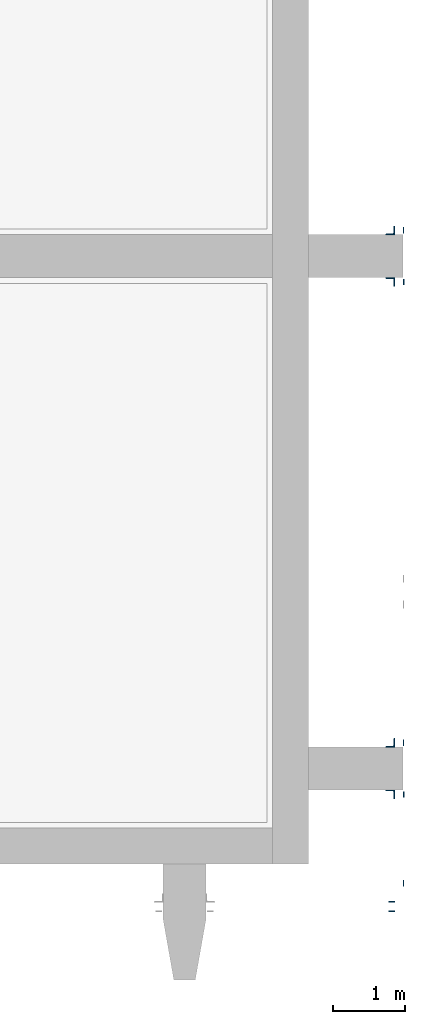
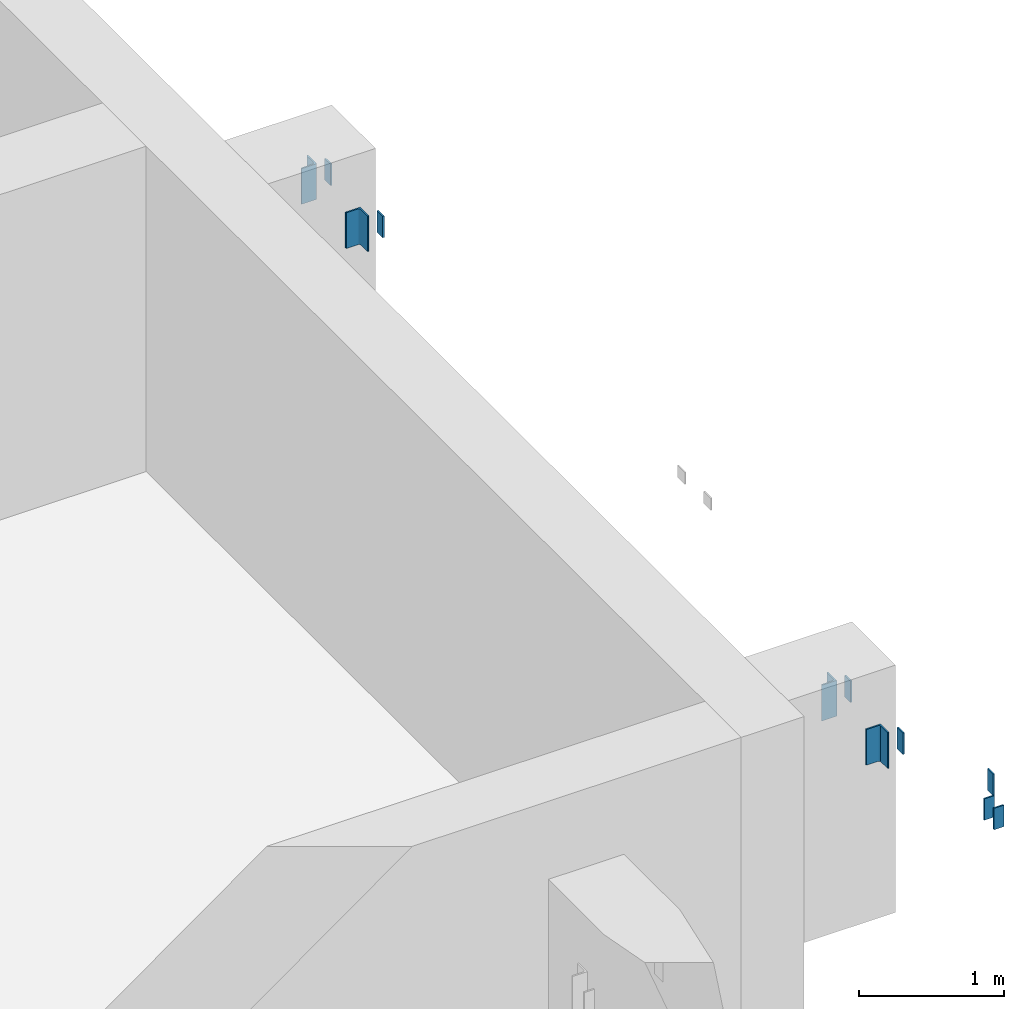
# One storey, part 9 of 22: 11 columns.
"""IFC2X3 building model written with IfcOpenShell, lengths in millimetres."""

from ifc_helpers import new_model, entity, si_unit, converted_unit, derived_unit, direction, frame, frame_2d, origin, origin_2d_with_axis, place, context, subcontext, project, spatial, polyline, circle_curve, parameter, trimmed, segment, composite_curve, rectangle, outline, extrude, source, transform, mapped, material, type_object, type_shapes, element, save


model = new_model("IFC2X3")

# Units and contexts
model_context = context("Model", 3, precision=0.01, world=origin(), true_north=direction((6.12303176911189e-17, 1.0)))
body_context = subcontext(model_context, "Body", "Model", "MODEL_VIEW")
ifc_project = project(units=[si_unit("LENGTHUNIT", "METRE", prefix="MILLI"), si_unit("AREAUNIT", "SQUARE_METRE"), si_unit("VOLUMEUNIT", "CUBIC_METRE"), converted_unit("PLANEANGLEUNIT", "DEGREE", entity("IfcRatioMeasure", 0.0174532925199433), si_unit("PLANEANGLEUNIT", "RADIAN"), dimensions=[0, 0, 0, 0, 0, 0, 0]), si_unit("MASSUNIT", "GRAM", prefix="KILO"), derived_unit("MASSDENSITYUNIT", [(si_unit("MASSUNIT", "GRAM", prefix="KILO"), 1), (si_unit("LENGTHUNIT", "METRE"), -3)]), si_unit("TIMEUNIT", "SECOND"), si_unit("FREQUENCYUNIT", "HERTZ"), si_unit("THERMODYNAMICTEMPERATUREUNIT", "DEGREE_CELSIUS"), derived_unit("THERMALTRANSMITTANCEUNIT", [(si_unit("MASSUNIT", "GRAM", prefix="KILO"), 1), (si_unit("THERMODYNAMICTEMPERATUREUNIT", "KELVIN"), -1), (si_unit("TIMEUNIT", "SECOND"), -3)]), derived_unit("VOLUMETRICFLOWRATEUNIT", [(si_unit("LENGTHUNIT", "METRE"), 3), (si_unit("TIMEUNIT", "SECOND"), -1)]), si_unit("ELECTRICCURRENTUNIT", "AMPERE"), si_unit("ELECTRICVOLTAGEUNIT", "VOLT"), si_unit("POWERUNIT", "WATT"), si_unit("FORCEUNIT", "NEWTON", prefix="KILO"), si_unit("ILLUMINANCEUNIT", "LUX"), si_unit("LUMINOUSFLUXUNIT", "LUMEN"), si_unit("LUMINOUSINTENSITYUNIT", "CANDELA"), derived_unit("USERDEFINED", [(si_unit("MASSUNIT", "GRAM", prefix="KILO"), -1), (si_unit("LENGTHUNIT", "METRE"), -2), (si_unit("TIMEUNIT", "SECOND"), 3), (si_unit("LUMINOUSFLUXUNIT", "LUMEN"), 1)]), derived_unit("LINEARVELOCITYUNIT", [(si_unit("LENGTHUNIT", "METRE"), 1), (si_unit("TIMEUNIT", "SECOND"), -1)]), si_unit("PRESSUREUNIT", "PASCAL"), derived_unit("USERDEFINED", [(si_unit("LENGTHUNIT", "METRE"), -2), (si_unit("MASSUNIT", "GRAM", prefix="KILO"), 1), (si_unit("TIMEUNIT", "SECOND"), -2)])], contexts=[model_context])

# Site, building, storey
site_placement = place(None, origin())
site = spatial("IfcSite", under=ifc_project, at=site_placement, Name="Default", CompositionType="ELEMENT")
building_placement = place(site_placement, origin())
building = spatial("IfcBuilding", under=site, at=building_placement, Name="niet gebruiken", CompositionType="ELEMENT")
storey_placement = place(building_placement, frame((0.0, 0.0, 15000.0)))
storey = spatial("IfcBuildingStorey", under=building, at=storey_placement, Name="04 vierde verdieping", CompositionType="ELEMENT", Elevation=15000.0)

# Columns
ifc_material = material(Name="NLRS_h2_staal")
column_type_1 = type_object("IfcColumnType", Name="kolomgelijzijdig hoekprofiel LEQU_120x120x12_!", PredefinedType="COLUMN", material=ifc_material)
shared_shape_1 = source(origin(), body_context, "Body", "SweptSolid", [
    extrude(outline(composite_curve([segment(polyline([(-74.6666666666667, -45.3333333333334), (45.3333333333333, -45.3333333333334)]), True, "CONTINUOUS"), segment(polyline([(45.3333333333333, -45.3333333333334), (45.3333333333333, 74.6666666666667)]), True, "CONTINUOUS"), segment(polyline([(45.3333333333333, 74.6666666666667), (41.3333333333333, 74.6666666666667)]), True, "CONTINUOUS"), segment(trimmed(circle_curve(frame_2d((41.3333333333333, 66.6666666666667), x_axis=(0.0, 1.0)), 8.0), [parameter(0.0)], [parameter(90.0)], True, "PARAMETER"), True, "CONTINUOUS"), segment(polyline([(33.3333333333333, 66.6666666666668), (33.3333333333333, -17.3333333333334)]), True, "CONTINUOUS"), segment(trimmed(circle_curve(frame_2d((17.3333333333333, -17.3333333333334), x_axis=(1.0, 0.0)), 16.0), [parameter(270.0)], [parameter(0.0)], True, "PARAMETER"), False, "CONTINUOUS"), segment(polyline([(17.3333333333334, -33.3333333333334), (-66.6666666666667, -33.3333333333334)]), True, "CONTINUOUS"), segment(trimmed(circle_curve(frame_2d((-66.6666666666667, -41.3333333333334), x_axis=(0.0, 1.0)), 7.99999999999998), [parameter(0.0)], [parameter(90.0000000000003)], True, "PARAMETER"), True, "CONTINUOUS"), segment(polyline([(-74.6666666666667, -41.3333333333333), (-74.6666666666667, -45.3333333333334)]), True, "CONTINUOUS")], self_intersect=False)), frame((32.8333333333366, 32.8333333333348, 16235.0), z_axis=(0.0, 0.0, 1.0), x_axis=(0.0, -1.0, 0.0)), (0.0, 0.0, 1.0), 300.00000000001),
])
type_shapes(column_type_1, [shared_shape_1])
for number, where, z_axis, x_axis in (
    (1, (158667.5, 2787.49999999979, -15000.0), (0.0, 0.0, 1.0), (-1.0, 0.0, 0.0)),
    (2, (158667.5, 9937.49999999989, -15000.0), (0.0, 0.0, 1.0), (-1.0, 0.0, 0.0)),
):
    element("IfcColumn", number, at=place(storey_placement, frame(where, z_axis=z_axis, x_axis=x_axis)), inside=storey, type_object=column_type_1, material=ifc_material, Name="NLRS_28.11_SCO_TLB_stalen kolom hoekprofiel gelijkzijdig_gen:kolomgelijzijdig hoekprofiel LEQU_120x120x12_!", ObjectType="kolomgelijzijdig hoekprofiel LEQU_120x120x12_!", context=body_context, shape_type="MappedRepresentation", body=[
        mapped(shared_shape_1, transform((0.0, 0.0, 0.0), scale=1.0)),
    ])
column_type_2 = type_object("IfcColumnType", Name="kolomgelijzijdig hoekprofiel LEQU_120x120x12_!", PredefinedType="COLUMN", material=ifc_material)
shared_shape_2 = source(origin(), body_context, "Body", "SweptSolid", [
    extrude(outline(composite_curve([segment(polyline([(-45.3333333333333, -45.3333333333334), (74.6666666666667, -45.3333333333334)]), True, "CONTINUOUS"), segment(polyline([(74.6666666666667, -45.3333333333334), (74.6666666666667, -41.3333333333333)]), True, "CONTINUOUS"), segment(trimmed(circle_curve(frame_2d((66.6666666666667, -41.3333333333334), x_axis=(1.0, 0.0)), 7.99999999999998), [parameter(0.0)], [parameter(90.0000000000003)], True, "PARAMETER"), True, "CONTINUOUS"), segment(polyline([(66.6666666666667, -33.3333333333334), (-17.3333333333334, -33.3333333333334)]), True, "CONTINUOUS"), segment(trimmed(circle_curve(frame_2d((-17.3333333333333, -17.3333333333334), x_axis=(0.0, -1.0)), 16.0), [parameter(270.0)], [parameter(0.0)], True, "PARAMETER"), False, "CONTINUOUS"), segment(polyline([(-33.3333333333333, -17.3333333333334), (-33.3333333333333, 66.6666666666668)]), True, "CONTINUOUS"), segment(trimmed(circle_curve(frame_2d((-41.3333333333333, 66.6666666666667), x_axis=(1.0, 0.0)), 8.0), [parameter(0.0)], [parameter(90.0)], True, "PARAMETER"), True, "CONTINUOUS"), segment(polyline([(-41.3333333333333, 74.6666666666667), (-45.3333333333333, 74.6666666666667)]), True, "CONTINUOUS"), segment(polyline([(-45.3333333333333, 74.6666666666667), (-45.3333333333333, -45.3333333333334)]), True, "CONTINUOUS")], self_intersect=False)), frame((32.8333333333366, -32.8333333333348, 16235.0), z_axis=(0.0, 0.0, 1.0), x_axis=(0.0, -1.0, 0.0)), (0.0, 0.0, 1.0), 300.00000000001),
])
type_shapes(column_type_2, [shared_shape_2])
for number, where, z_axis, x_axis in (
    (3, (158667.5, 3412.5, -15000.0), (0.0, 0.0, 1.0), (-1.0, 0.0, 0.0)),
    (4, (158667.5, 10562.5000000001, -15000.0), (0.0, 0.0, 1.0), (-1.0, 0.0, 0.0)),
):
    element("IfcColumn", number, at=place(storey_placement, frame(where, z_axis=z_axis, x_axis=x_axis)), inside=storey, type_object=column_type_2, material=ifc_material, Name="NLRS_28.11_SCO_TLB_stalen kolom hoekprofiel gelijkzijdig_gen:kolomgelijzijdig hoekprofiel LEQU_120x120x12_!", ObjectType="kolomgelijzijdig hoekprofiel LEQU_120x120x12_!", context=body_context, shape_type="MappedRepresentation", body=[
        mapped(shared_shape_2, transform((0.0, 0.0, 0.0), scale=1.0)),
    ])
column_type_3 = type_object("IfcColumnType", Name="kolom stripstaal RECT_80x12", PredefinedType="COLUMN", material=ifc_material)
shared_shape_3 = source(origin(), body_context, "Body", "SweptSolid", [
    extrude(rectangle(XDim=79.9999999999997, YDim=12.0000000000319, at=frame_2d((-2.70006239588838e-13, 0.0), x_axis=(1.0, 0.0))), frame((158806.0, 2740.0, 16295.0), z_axis=(0.0, 0.0, 1.0), x_axis=(0.0, -1.0, 0.0)), (0.0, 0.0, 1.0), 180.000000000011),
])
type_shapes(column_type_3, [shared_shape_3])
column_1_placement = place(storey_placement, frame((0.0, 0.0, -15000.0)))
element("IfcColumn", 5, at=column_1_placement, inside=storey, type_object=column_type_3, material=ifc_material, Name="NLRS_28.11_SCO_TLB_stalen kolom stripstaal_gen:kolom stripstaal RECT_80x12", ObjectType="kolom stripstaal RECT_80x12", context=body_context, shape_type="MappedRepresentation", body=[
    mapped(shared_shape_3, transform((0.0, 0.0, 0.0), scale=1.0)),
])
column_type_4 = type_object("IfcColumnType", Name="kolom stripstaal RECT_80x12", PredefinedType="COLUMN", material=ifc_material)
shared_shape_4 = source(origin(), body_context, "Body", "SweptSolid", [
    extrude(rectangle(XDim=80.0000000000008, YDim=11.9999999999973, at=frame_2d((2.70006239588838e-13, 0.0), x_axis=(1.0, 0.0))), frame((158806.0, 3460.0, 16295.0), z_axis=(0.0, 0.0, 1.0), x_axis=(0.0, -1.0, 0.0)), (0.0, 0.0, 1.0), 180.000000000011),
])
type_shapes(column_type_4, [shared_shape_4])
column_2_placement = place(storey_placement, frame((0.0, 0.0, -15000.0)))
element("IfcColumn", 6, at=column_2_placement, inside=storey, type_object=column_type_4, material=ifc_material, Name="NLRS_28.11_SCO_TLB_stalen kolom stripstaal_gen:kolom stripstaal RECT_80x12", ObjectType="kolom stripstaal RECT_80x12", context=body_context, shape_type="MappedRepresentation", body=[
    mapped(shared_shape_4, transform((0.0, 0.0, 0.0), scale=1.0)),
])
column_type_5 = type_object("IfcColumnType", Name="kolom stripstaal RECT_80x12", PredefinedType="COLUMN", material=ifc_material)
shared_shape_5 = source(origin(), body_context, "Body", "SweptSolid", [
    extrude(rectangle(XDim=79.999999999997, YDim=12.0000000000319, at=origin_2d_with_axis()), frame((158806.0, 9890.0, 16295.0), z_axis=(0.0, 0.0, 1.0), x_axis=(0.0, -1.0, 0.0)), (0.0, 0.0, 1.0), 180.000000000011),
])
type_shapes(column_type_5, [shared_shape_5])
column_3_placement = place(storey_placement, frame((0.0, 0.0, -15000.0)))
element("IfcColumn", 7, at=column_3_placement, inside=storey, type_object=column_type_5, material=ifc_material, Name="NLRS_28.11_SCO_TLB_stalen kolom stripstaal_gen:kolom stripstaal RECT_80x12", ObjectType="kolom stripstaal RECT_80x12", context=body_context, shape_type="MappedRepresentation", body=[
    mapped(shared_shape_5, transform((0.0, 0.0, 0.0), scale=1.0)),
])
column_type_6 = type_object("IfcColumnType", Name="kolom stripstaal RECT_80x12", PredefinedType="COLUMN", material=ifc_material)
shared_shape_6 = source(origin(), body_context, "Body", "SweptSolid", [
    extrude(rectangle(XDim=79.9999999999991, YDim=11.9999999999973, at=origin_2d_with_axis()), frame((158806.0, 10610.0, 16295.0), z_axis=(0.0, 0.0, 1.0), x_axis=(0.0, -1.0, 0.0)), (0.0, 0.0, 1.0), 180.000000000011),
])
type_shapes(column_type_6, [shared_shape_6])
column_4_placement = place(storey_placement, frame((0.0, 0.0, -15000.0)))
element("IfcColumn", 8, at=column_4_placement, inside=storey, type_object=column_type_6, material=ifc_material, Name="NLRS_28.11_SCO_TLB_stalen kolom stripstaal_gen:kolom stripstaal RECT_80x12", ObjectType="kolom stripstaal RECT_80x12", context=body_context, shape_type="MappedRepresentation", body=[
    mapped(shared_shape_6, transform((0.0, 0.0, 0.0), scale=1.0)),
])
column_type_7 = type_object("IfcColumnType", Name="kolom stripstaal RECT_80x12", PredefinedType="COLUMN", material=ifc_material)
shared_shape_7 = source(origin(), body_context, "Body", "SweptSolid", [
    extrude(rectangle(XDim=12.0, YDim=80.0000000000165, at=origin_2d_with_axis()), frame((158640.0, 1108.0, 16702.0), z_axis=(0.0, 0.0, 1.0), x_axis=(0.0, -1.0, 0.0)), (0.0, 0.0, 1.0), 180.000000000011),
])
type_shapes(column_type_7, [shared_shape_7])
column_5_placement = place(storey_placement, frame((0.0, 0.0, -15000.0)))
element("IfcColumn", 9, at=column_5_placement, inside=storey, type_object=column_type_7, material=ifc_material, Name="NLRS_28.11_SCO_TLB_stalen kolom stripstaal_gen:kolom stripstaal RECT_80x12", ObjectType="kolom stripstaal RECT_80x12", context=body_context, shape_type="MappedRepresentation", body=[
    mapped(shared_shape_7, transform((0.0, 0.0, 0.0), scale=1.0)),
])
column_type_8 = type_object("IfcColumnType", Name="kolom stripstaal RECT_80x12", PredefinedType="COLUMN", material=ifc_material)
shared_shape_8 = source(origin(), body_context, "Body", "SweptSolid", [
    extrude(rectangle(XDim=12.0, YDim=80.0000000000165, at=frame_2d((-1.35447209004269e-13, 0.0), x_axis=(1.0, 0.0))), frame((158640.0, 1240.0, 16702.0), z_axis=(0.0, 0.0, 1.0), x_axis=(0.0, -1.0, 0.0)), (0.0, 0.0, 1.0), 180.000000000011),
])
type_shapes(column_type_8, [shared_shape_8])
column_6_placement = place(storey_placement, frame((0.0, 0.0, -15000.0)))
element("IfcColumn", 10, at=column_6_placement, inside=storey, type_object=column_type_8, material=ifc_material, Name="NLRS_28.11_SCO_TLB_stalen kolom stripstaal_gen:kolom stripstaal RECT_80x12", ObjectType="kolom stripstaal RECT_80x12", context=body_context, shape_type="MappedRepresentation", body=[
    mapped(shared_shape_8, transform((0.0, 0.0, 0.0), scale=1.0)),
])
column_type_9 = type_object("IfcColumnType", Name="kolom stripstaal RECT_80x12", PredefinedType="COLUMN", material=ifc_material)
shared_shape_9 = source(origin(), body_context, "Body", "SweptSolid", [
    extrude(rectangle(XDim=79.9999999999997, YDim=11.9999999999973, at=frame_2d((-1.35003119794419e-13, 0.0), x_axis=(1.0, 0.0))), frame((158806.0, 1499.0, 16702.0), z_axis=(0.0, 0.0, 1.0), x_axis=(0.0, -1.0, 0.0)), (0.0, 0.0, 1.0), 180.000000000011),
])
type_shapes(column_type_9, [shared_shape_9])
column_7_placement = place(storey_placement, frame((0.0, 0.0, -15000.0)))
element("IfcColumn", 11, at=column_7_placement, inside=storey, type_object=column_type_9, material=ifc_material, Name="NLRS_28.11_SCO_TLB_stalen kolom stripstaal_gen:kolom stripstaal RECT_80x12", ObjectType="kolom stripstaal RECT_80x12", context=body_context, shape_type="MappedRepresentation", body=[
    mapped(shared_shape_9, transform((0.0, 0.0, 0.0), scale=1.0)),
])

save(model, "model.ifc")
